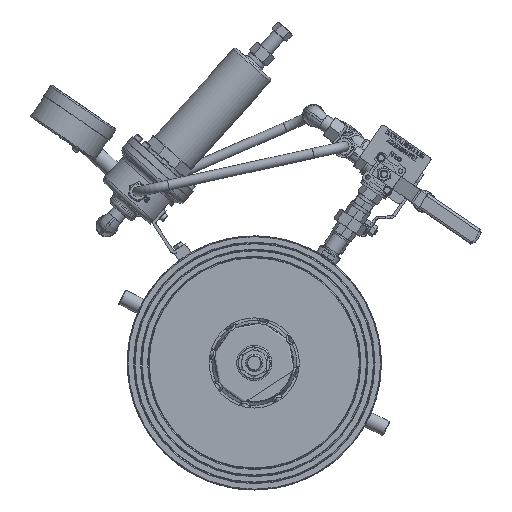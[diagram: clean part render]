
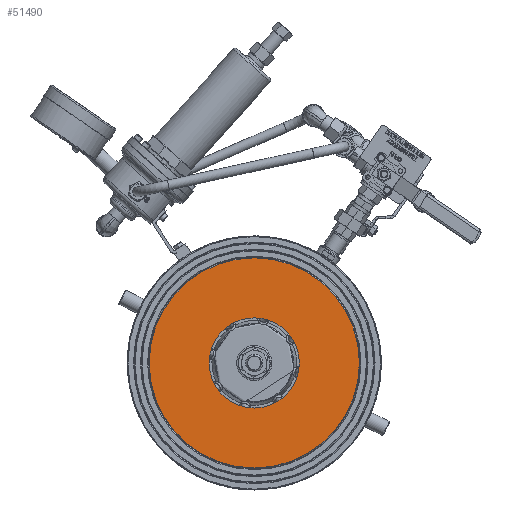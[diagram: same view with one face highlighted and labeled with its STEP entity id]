
A CAD part, front view. The second image highlights one B-rep face of the part: STEP entity #51490.
In plain terms, the highlighted planar face has unit normal (0, -1, 0).
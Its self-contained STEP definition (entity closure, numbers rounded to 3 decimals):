
#3390=FACE_BOUND('',#9317,.T.);
#4046=PLANE('',#55304);
#6199=FACE_OUTER_BOUND('',#9316,.T.);
#9316=EDGE_LOOP('',(#37250));
#9317=EDGE_LOOP('',(#37251));
#18400=CIRCLE('',#55297,57.5);
#18405=CIRCLE('',#55305,134.);
#21458=VERTEX_POINT('',#97979);
#21463=VERTEX_POINT('',#97994);
#27156=EDGE_CURVE('',#21458,#21458,#18400,.T.);
#27163=EDGE_CURVE('',#21463,#21463,#18405,.T.);
#37250=ORIENTED_EDGE('',*,*,#27163,.T.);
#37251=ORIENTED_EDGE('',*,*,#27156,.T.);
#51490=ADVANCED_FACE('',(#6199,#3390),#4046,.T.);
#55297=AXIS2_PLACEMENT_3D('',#97980,#62730,#62731);
#55304=AXIS2_PLACEMENT_3D('',#97993,#62746,#62747);
#55305=AXIS2_PLACEMENT_3D('',#97995,#62748,#62749);
#62730=DIRECTION('center_axis',(0.,1.,0.));
#62731=DIRECTION('ref_axis',(-1.,0.,0.));
#62746=DIRECTION('center_axis',(0.,-1.,0.));
#62747=DIRECTION('ref_axis',(-1.,0.,0.));
#62748=DIRECTION('center_axis',(0.,-1.,0.));
#62749=DIRECTION('ref_axis',(0.,0.,
-1.));
#97979=CARTESIAN_POINT('',(2000.356,418.022,205.605));
#97980=CARTESIAN_POINT('Origin',(1942.856,418.022,205.605));
#97993=CARTESIAN_POINT('Origin',(1942.856,418.022,205.605));
#97994=CARTESIAN_POINT('',(1942.856,418.022,339.605));
#97995=CARTESIAN_POINT('Origin',(1942.856,418.022,205.605));
